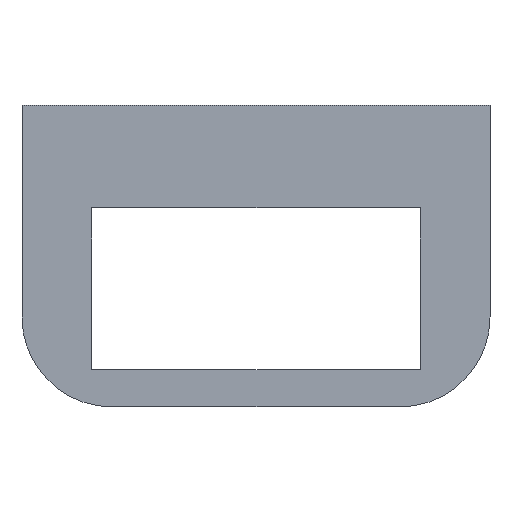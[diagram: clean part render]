
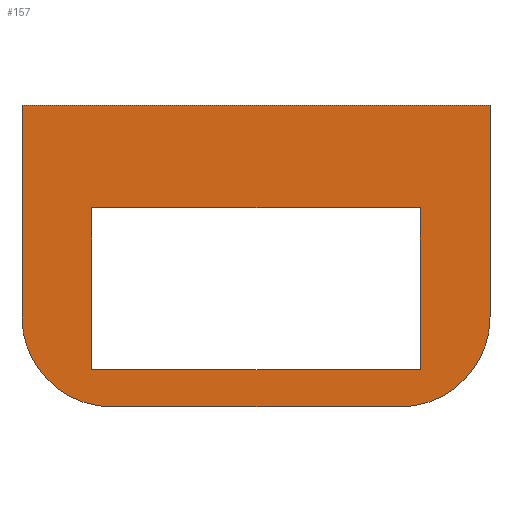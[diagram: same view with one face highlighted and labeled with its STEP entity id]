
A CAD part, left-side view. The second image highlights one B-rep face of the part: STEP entity #157.
In plain terms, the highlighted planar face has unit normal (-1, 0, 0).
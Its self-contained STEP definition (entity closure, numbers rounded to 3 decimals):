
#157=ADVANCED_FACE('',(#407,#409),#411,.F.);
#407=FACE_BOUND('',#408,.T.);
#408=EDGE_LOOP('',(#623,#624,#625,#626,#627,#628));
#409=FACE_BOUND('',#410,.T.);
#410=EDGE_LOOP('',(#629,#630,#631,#632));
#411=PLANE('',#412);
#412=AXIS2_PLACEMENT_3D('',#413,#414,#415);
#413=CARTESIAN_POINT('',(68.285,-29.983,-32.));
#414=DIRECTION('',(1.,0.,0.));
#415=DIRECTION('',(0.,1.,0.));
#623=ORIENTED_EDGE('',*,*,#739,.F.);
#624=ORIENTED_EDGE('',*,*,#718,.F.);
#625=ORIENTED_EDGE('',*,*,#710,.F.);
#626=ORIENTED_EDGE('',*,*,#716,.F.);
#627=ORIENTED_EDGE('',*,*,#737,.F.);
#628=ORIENTED_EDGE('',*,*,#720,.F.);
#629=ORIENTED_EDGE('',*,*,#713,.F.);
#630=ORIENTED_EDGE('',*,*,#706,.F.);
#631=ORIENTED_EDGE('',*,*,#700,.F.);
#632=ORIENTED_EDGE('',*,*,#704,.F.);
#700=EDGE_CURVE('',#773,#775,#776,.T.);
#704=EDGE_CURVE('',#780,#773,#782,.T.);
#706=EDGE_CURVE('',#775,#785,#786,.T.);
#710=EDGE_CURVE('',#791,#793,#794,.T.);
#713=EDGE_CURVE('',#785,#780,#797,.T.);
#716=EDGE_CURVE('',#800,#791,#802,.F.);
#718=EDGE_CURVE('',#793,#805,#806,.T.);
#720=EDGE_CURVE('',#808,#809,#810,.F.);
#737=EDGE_CURVE('',#809,#800,#841,.F.);
#739=EDGE_CURVE('',#805,#808,#844,.F.);
#773=VERTEX_POINT('',#897);
#775=VERTEX_POINT('',#901);
#776=LINE('',#902,#903);
#780=VERTEX_POINT('',#912);
#782=LINE('',#916,#917);
#785=VERTEX_POINT('',#923);
#786=LINE('',#924,#925);
#791=VERTEX_POINT('',#935);
#793=VERTEX_POINT('',#939);
#794=LINE('',#940,#941);
#797=LINE('',#949,#950);
#800=VERTEX_POINT('',#957);
#802=(BOUNDED_CURVE()B_SPLINE_CURVE(3,
(#961,#962,#963,#964),
.UNSPECIFIED.,.F.,.F.)B_SPLINE_CURVE_WITH_KNOTS((4,4),
(0.,1.),
.UNSPECIFIED.)CURVE()GEOMETRIC_REPRESENTATION_ITEM()RATIONAL_B_SPLINE_CURVE((1.,
0.805,0.805,1.))REPRESENTATION_ITEM(''));
#805=VERTEX_POINT('',#970);
#806=(BOUNDED_CURVE()B_SPLINE_CURVE(3,
(#971,#972,#973,#974),
.UNSPECIFIED.,.F.,.F.)B_SPLINE_CURVE_WITH_KNOTS((4,4),
(0.,1.),
.UNSPECIFIED.)CURVE()GEOMETRIC_REPRESENTATION_ITEM()RATIONAL_B_SPLINE_CURVE((1.,
0.805,0.805,1.))REPRESENTATION_ITEM(''));
#808=VERTEX_POINT('',#978);
#809=VERTEX_POINT('',#979);
#810=LINE('',#980,#981);
#841=LINE('',#1051,#1052);
#844=LINE('',#1058,#1059);
#897=CARTESIAN_POINT('',(68.285,12.8,-12.6));
#901=CARTESIAN_POINT('',(68.285,-12.8,-12.6));
#902=CARTESIAN_POINT('',(68.285,12.8,-12.6));
#903=VECTOR('',#904,1.);
#904=DIRECTION('',(0.,-1.,0.));
#912=CARTESIAN_POINT('',(68.285,12.8,0.));
#916=CARTESIAN_POINT('',(68.285,12.8,0.));
#917=VECTOR('',#918,1.);
#918=DIRECTION('',(0.,0.,-1.));
#923=CARTESIAN_POINT('',(68.285,-12.8,0.));
#924=CARTESIAN_POINT('',(68.285,-12.8,-12.6));
#925=VECTOR('',#926,1.);
#926=DIRECTION('',(0.,0.,1.));
#935=CARTESIAN_POINT('',(68.285,-11.227,-15.5));
#939=CARTESIAN_POINT('',(68.285,11.227,-15.5));
#940=CARTESIAN_POINT('',(68.285,-11.227,-15.5));
#941=VECTOR('',#942,1.);
#942=DIRECTION('',(0.,1.,0.));
#949=CARTESIAN_POINT('',(68.285,-12.8,0.));
#950=VECTOR('',#951,1.);
#951=DIRECTION('',(0.,1.,0.));
#957=CARTESIAN_POINT('',(68.285,-18.227,-8.5));
#961=CARTESIAN_POINT('',(68.285,-11.227,-15.5));
#962=CARTESIAN_POINT('',(68.285,-15.327,-15.5));
#963=CARTESIAN_POINT('',(68.285,-18.227,-12.601));
#964=CARTESIAN_POINT('',(68.285,-18.227,-8.5));
#970=CARTESIAN_POINT('',(68.285,18.227,-8.5));
#971=CARTESIAN_POINT('',(68.285,11.227,-15.5));
#972=CARTESIAN_POINT('',(68.285,15.327,-15.5));
#973=CARTESIAN_POINT('',(68.285,18.227,-12.601));
#974=CARTESIAN_POINT('',(68.285,18.227,-8.5));
#978=CARTESIAN_POINT('',(68.285,18.227,8.));
#979=CARTESIAN_POINT('',(68.285,-18.227,8.));
#980=CARTESIAN_POINT('',(68.285,-18.227,8.));
#981=VECTOR('',#982,1.);
#982=DIRECTION('',(0.,1.,0.));
#1051=CARTESIAN_POINT('',(68.285,-18.227,-8.5));
#1052=VECTOR('',#1053,1.);
#1053=DIRECTION('',(0.,0.,1.));
#1058=CARTESIAN_POINT('',(68.285,18.227,8.));
#1059=VECTOR('',#1060,1.);
#1060=DIRECTION('',(0.,0.,-1.));
